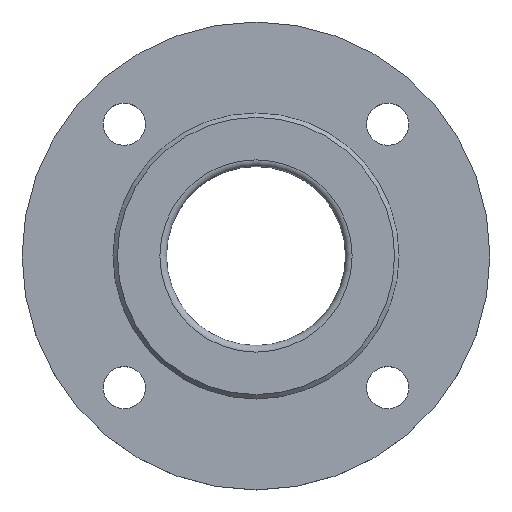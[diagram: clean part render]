
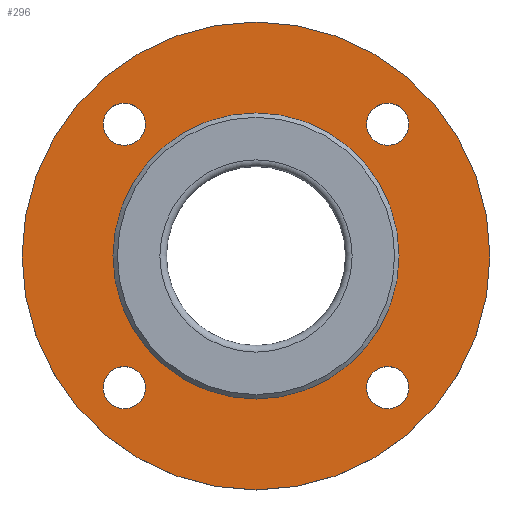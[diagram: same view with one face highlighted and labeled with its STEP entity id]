
A CAD part, top view. The second image highlights one B-rep face of the part: STEP entity #296.
In plain terms, the highlighted planar face has unit normal (0, 0, 1).
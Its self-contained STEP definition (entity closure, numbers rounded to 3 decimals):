
#20=FACE_BOUND('',#56,.T.);
#21=FACE_BOUND('',#57,.T.);
#22=FACE_BOUND('',#58,.T.);
#23=FACE_BOUND('',#59,.T.);
#24=FACE_BOUND('',#60,.T.);
#32=PLANE('',#343);
#40=FACE_OUTER_BOUND('',#55,.T.);
#55=EDGE_LOOP('',(#222,#223));
#56=EDGE_LOOP('',(#224,#225));
#57=EDGE_LOOP('',(#226,#227));
#58=EDGE_LOOP('',(#228,#229));
#59=EDGE_LOOP('',(#230,#231));
#60=EDGE_LOOP('',(#232,#233));
#96=CIRCLE('',#328,9.5);
#97=CIRCLE('',#329,9.5);
#99=CIRCLE('',#332,9.5);
#100=CIRCLE('',#333,9.5);
#102=CIRCLE('',#336,9.5);
#103=CIRCLE('',#337,9.5);
#105=CIRCLE('',#340,9.5);
#106=CIRCLE('',#341,9.5);
#108=CIRCLE('',#344,105.5);
#109=CIRCLE('',#345,105.5);
#110=CIRCLE('',#346,64.5);
#111=CIRCLE('',#347,64.5);
#129=VERTEX_POINT('',#484);
#130=VERTEX_POINT('',#485);
#132=VERTEX_POINT('',#492);
#133=VERTEX_POINT('',#493);
#135=VERTEX_POINT('',#500);
#136=VERTEX_POINT('',#501);
#138=VERTEX_POINT('',#508);
#139=VERTEX_POINT('',#509);
#141=VERTEX_POINT('',#516);
#142=VERTEX_POINT('',#517);
#143=VERTEX_POINT('',#520);
#144=VERTEX_POINT('',#521);
#160=EDGE_CURVE('',#129,#130,#96,.T.);
#161=EDGE_CURVE('',#130,#129,#97,.T.);
#164=EDGE_CURVE('',#132,#133,#99,.T.);
#165=EDGE_CURVE('',#133,#132,#100,.T.);
#168=EDGE_CURVE('',#135,#136,#102,.T.);
#169=EDGE_CURVE('',#136,#135,#103,.T.);
#172=EDGE_CURVE('',#138,#139,#105,.T.);
#173=EDGE_CURVE('',#139,#138,#106,.T.);
#176=EDGE_CURVE('',#141,#142,#108,.T.);
#177=EDGE_CURVE('',#142,#141,#109,.T.);
#178=EDGE_CURVE('',#143,#144,#110,.T.);
#179=EDGE_CURVE('',#144,#143,#111,.T.);
#222=ORIENTED_EDGE('',*,*,#176,.F.);
#223=ORIENTED_EDGE('',*,*,#177,.F.);
#224=ORIENTED_EDGE('',*,*,#160,.T.);
#225=ORIENTED_EDGE('',*,*,#161,.T.);
#226=ORIENTED_EDGE('',*,*,#164,.T.);
#227=ORIENTED_EDGE('',*,*,#165,.T.);
#228=ORIENTED_EDGE('',*,*,#168,.T.);
#229=ORIENTED_EDGE('',*,*,#169,.T.);
#230=ORIENTED_EDGE('',*,*,#172,.T.);
#231=ORIENTED_EDGE('',*,*,#173,.T.);
#232=ORIENTED_EDGE('',*,*,#178,.T.);
#233=ORIENTED_EDGE('',*,*,#179,.T.);
#296=ADVANCED_FACE('',(#40,#20,#21,#22,#23,#24),#32,.F.);
#328=AXIS2_PLACEMENT_3D('',#486,#379,#380);
#329=AXIS2_PLACEMENT_3D('',#487,#381,#382);
#332=AXIS2_PLACEMENT_3D('',#494,#388,#389);
#333=AXIS2_PLACEMENT_3D('',#495,#390,#391);
#336=AXIS2_PLACEMENT_3D('',#502,#397,#398);
#337=AXIS2_PLACEMENT_3D('',#503,#399,#400);
#340=AXIS2_PLACEMENT_3D('',#510,#406,#407);
#341=AXIS2_PLACEMENT_3D('',#511,#408,#409);
#343=AXIS2_PLACEMENT_3D('',#515,#413,#414);
#344=AXIS2_PLACEMENT_3D('',#518,#415,#416);
#345=AXIS2_PLACEMENT_3D('',#519,#417,#418);
#346=AXIS2_PLACEMENT_3D('',#522,#419,#420);
#347=AXIS2_PLACEMENT_3D('',#523,#421,#422);
#379=DIRECTION('center_axis',(0.,0.,-1.));
#380=DIRECTION('ref_axis',(0.,-1.,0.));
#381=DIRECTION('center_axis',(0.,0.,-1.));
#382=DIRECTION('ref_axis',(0.,-1.,0.));
#388=DIRECTION('center_axis',(0.,0.,-1.));
#389=DIRECTION('ref_axis',(-1.,0.,0.));
#390=DIRECTION('center_axis',(0.,0.,-1.));
#391=DIRECTION('ref_axis',(-1.,0.,0.));
#397=DIRECTION('center_axis',(0.,0.,-1.));
#398=DIRECTION('ref_axis',(0.,1.,0.));
#399=DIRECTION('center_axis',(0.,0.,-1.));
#400=DIRECTION('ref_axis',(0.,1.,0.));
#406=DIRECTION('center_axis',(0.,0.,-1.));
#407=DIRECTION('ref_axis',(1.,0.,0.));
#408=DIRECTION('center_axis',(0.,0.,-1.));
#409=DIRECTION('ref_axis',(1.,0.,0.));
#413=DIRECTION('center_axis',(0.,0.,-1.));
#414=DIRECTION('ref_axis',(-1.,0.,0.));
#415=DIRECTION('center_axis',(0.,0.,-1.));
#416=DIRECTION('ref_axis',(1.,0.,0.));
#417=DIRECTION('center_axis',(0.,0.,-1.));
#418=DIRECTION('ref_axis',(1.,0.,0.));
#419=DIRECTION('center_axis',(0.,0.,-1.));
#420=DIRECTION('ref_axis',(1.,0.,0.));
#421=DIRECTION('center_axis',(0.,0.,-1.));
#422=DIRECTION('ref_axis',(1.,0.,0.));
#484=CARTESIAN_POINT('',(59.397,49.897,-2.));
#485=CARTESIAN_POINT('',(59.397,68.897,-2.));
#486=CARTESIAN_POINT('Origin',(59.397,59.397,-2.));
#487=CARTESIAN_POINT('Origin',(59.397,59.397,-2.));
#492=CARTESIAN_POINT('',(49.897,-59.397,-2.));
#493=CARTESIAN_POINT('',(68.897,-59.397,-2.));
#494=CARTESIAN_POINT('Origin',(59.397,-59.397,-2.));
#495=CARTESIAN_POINT('Origin',(59.397,-59.397,-2.));
#500=CARTESIAN_POINT('',(-59.397,-49.897,-2.));
#501=CARTESIAN_POINT('',(-59.397,-68.897,-2.));
#502=CARTESIAN_POINT('Origin',(-59.397,-59.397,-2.));
#503=CARTESIAN_POINT('Origin',(-59.397,-59.397,-2.));
#508=CARTESIAN_POINT('',(-49.897,59.397,-2.));
#509=CARTESIAN_POINT('',(-68.897,59.397,-2.));
#510=CARTESIAN_POINT('Origin',(-59.397,59.397,-2.));
#511=CARTESIAN_POINT('Origin',(-59.397,59.397,-2.));
#515=CARTESIAN_POINT('Origin',(64.5,0.,-2.));
#516=CARTESIAN_POINT('',(105.5,0.,-2.));
#517=CARTESIAN_POINT('',(-105.5,0.,-2.));
#518=CARTESIAN_POINT('Origin',(0.,0.,-2.));
#519=CARTESIAN_POINT('Origin',(0.,0.,-2.));
#520=CARTESIAN_POINT('',(64.5,0.,-2.));
#521=CARTESIAN_POINT('',(-64.5,0.,-2.));
#522=CARTESIAN_POINT('Origin',(0.,0.,-2.));
#523=CARTESIAN_POINT('Origin',(0.,0.,-2.));
